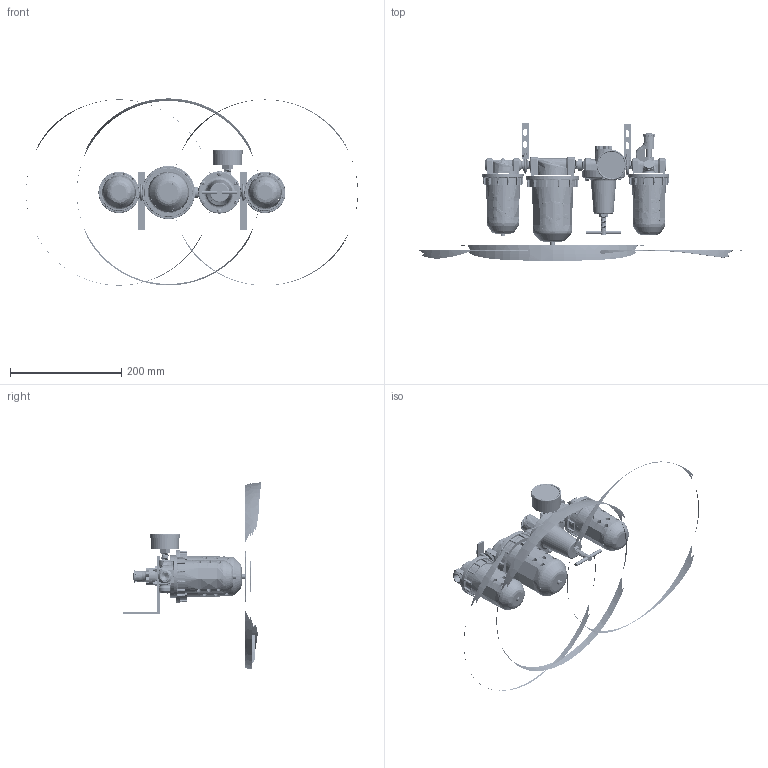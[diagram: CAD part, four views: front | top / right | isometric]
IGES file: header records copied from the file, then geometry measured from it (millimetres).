
Start section: SolidWorks IGES file using analytic representation for surfaces
Global section: file name: C:\Users\Toshiba\Desktop\A728##-03YB#.IGS; native system: SolidWorks 2014; preprocessor: SolidWorks 2014; author: Toshiba; date: 160216.103036; units: millimetre
Bounding box: 598.19 x 248.55 x 337.41 mm (x, y, z)
Surface area: 257931.5 mm2 (no closed solid volume)
Topology: 0 solids, 0 shells, 2209 faces, 32700 edges, 32665 vertices
Faces by surface type: bspline 1141, revolution 1068
